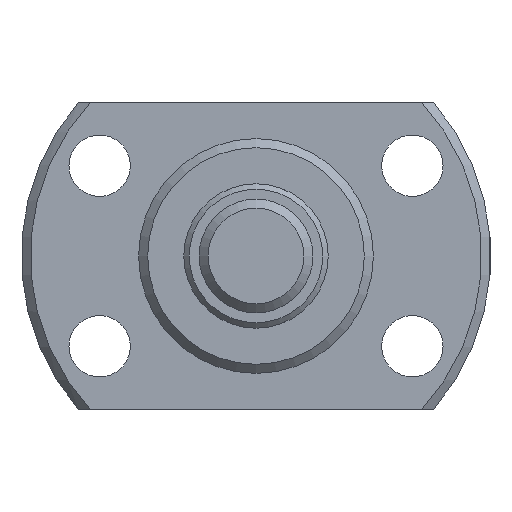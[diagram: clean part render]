
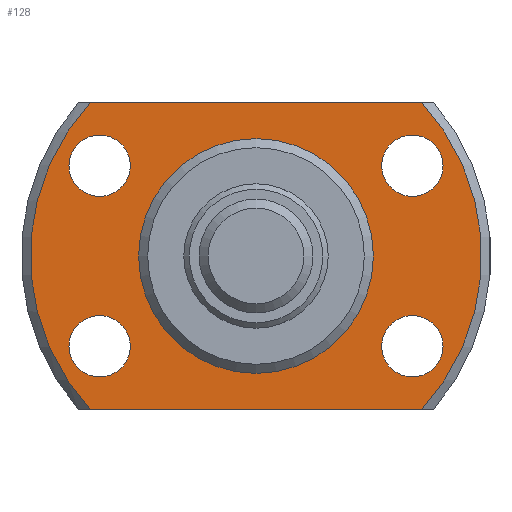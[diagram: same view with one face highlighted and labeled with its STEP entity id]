
A CAD part, left-side view. The second image highlights one B-rep face of the part: STEP entity #128.
In plain terms, the highlighted planar face has unit normal (-1, 0, 0).
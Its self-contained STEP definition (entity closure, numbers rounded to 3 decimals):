
#128 = ADVANCED_FACE( '', ( #253, #254, #255, #256, #257, #258 ), #259, .F. );
#253 = FACE_OUTER_BOUND( '', #409, .T. );
#254 = FACE_BOUND( '', #410, .T. );
#255 = FACE_BOUND( '', #411, .T. );
#256 = FACE_BOUND( '', #412, .T. );
#257 = FACE_BOUND( '', #413, .T. );
#258 = FACE_BOUND( '', #414, .T. );
#259 = PLANE( '', #415 );
#409 = EDGE_LOOP( '', ( #579, #580, #581, #582 ) );
#410 = EDGE_LOOP( '', ( #583 ) );
#411 = EDGE_LOOP( '', ( #584 ) );
#412 = EDGE_LOOP( '', ( #585 ) );
#413 = EDGE_LOOP( '', ( #586 ) );
#414 = EDGE_LOOP( '', ( #587 ) );
#415 = AXIS2_PLACEMENT_3D( '', #588, #589, #590 );
#579 = ORIENTED_EDGE( '', *, *, #799, .F. );
#580 = ORIENTED_EDGE( '', *, *, #825, .F. );
#581 = ORIENTED_EDGE( '', *, *, #826, .F. );
#582 = ORIENTED_EDGE( '', *, *, #827, .F. );
#583 = ORIENTED_EDGE( '', *, *, #828, .T. );
#584 = ORIENTED_EDGE( '', *, *, #829, .T. );
#585 = ORIENTED_EDGE( '', *, *, #830, .T. );
#586 = ORIENTED_EDGE( '', *, *, #831, .T. );
#587 = ORIENTED_EDGE( '', *, *, #832, .T. );
#588 = CARTESIAN_POINT( '', ( 11., 6.35, 0. ) );
#589 = DIRECTION( '', ( 1., 0., 0. ) );
#590 = DIRECTION( '', ( 0., 0., -1. ) );
#799 = EDGE_CURVE( '', #899, #895, #901, .T. );
#825 = EDGE_CURVE( '', #944, #899, #945, .T. );
#826 = EDGE_CURVE( '', #946, #944, #947, .T. );
#827 = EDGE_CURVE( '', #895, #946, #948, .T. );
#828 = EDGE_CURVE( '', #949, #949, #950, .T. );
#829 = EDGE_CURVE( '', #951, #951, #952, .T. );
#830 = EDGE_CURVE( '', #953, #953, #954, .T. );
#831 = EDGE_CURVE( '', #955, #955, #956, .T. );
#832 = EDGE_CURVE( '', #957, #957, #958, .T. );
#895 = VERTEX_POINT( '', #1042 );
#899 = VERTEX_POINT( '', #1049 );
#901 = CIRCLE( '', #1054, 12.5 );
#944 = VERTEX_POINT( '', #1108 );
#945 = LINE( '', #1109, #1110 );
#946 = VERTEX_POINT( '', #1111 );
#947 = CIRCLE( '', #1112, 12.5 );
#948 = LINE( '', #1113, #1114 );
#949 = VERTEX_POINT( '', #1115 );
#950 = CIRCLE( '', #1116, 1.7 );
#951 = VERTEX_POINT( '', #1117 );
#952 = CIRCLE( '', #1118, 1.7 );
#953 = VERTEX_POINT( '', #1119 );
#954 = CIRCLE( '', #1120, 1.7 );
#955 = VERTEX_POINT( '', #1121 );
#956 = CIRCLE( '', #1122, 1.7 );
#957 = VERTEX_POINT( '', #1123 );
#958 = CIRCLE( '', #1124, 6.35 );
#1042 = CARTESIAN_POINT( '', ( 11., 9.165, 8.5 ) );
#1049 = CARTESIAN_POINT( '', ( 11., 9.165, -8.5 ) );
#1054 = AXIS2_PLACEMENT_3D( '', #1230, #1231, #1232 );
#1108 = CARTESIAN_POINT( '', ( 11., -9.165, -8.5 ) );
#1109 = CARTESIAN_POINT( '', ( 11., -26., -8.5 ) );
#1110 = VECTOR( '', #1268, 1000. );
#1111 = CARTESIAN_POINT( '', ( 11., -9.165, 8.5 ) );
#1112 = AXIS2_PLACEMENT_3D( '', #1269, #1270, #1271 );
#1113 = CARTESIAN_POINT( '', ( 11., 26., 8.5 ) );
#1114 = VECTOR( '', #1272, 1000. );
#1115 = CARTESIAN_POINT( '', ( 11., -8.66, 3.3 ) );
#1116 = AXIS2_PLACEMENT_3D( '', #1273, #1274, #1275 );
#1117 = CARTESIAN_POINT( '', ( 11., -8.66, -6.7 ) );
#1118 = AXIS2_PLACEMENT_3D( '', #1276, #1277, #1278 );
#1119 = CARTESIAN_POINT( '', ( 11., 8.66, -6.7 ) );
#1120 = AXIS2_PLACEMENT_3D( '', #1279, #1280, #1281 );
#1121 = CARTESIAN_POINT( '', ( 11., 8.66, 3.3 ) );
#1122 = AXIS2_PLACEMENT_3D( '', #1282, #1283, #1284 );
#1123 = CARTESIAN_POINT( '', ( 11., 0., -6.35 ) );
#1124 = AXIS2_PLACEMENT_3D( '', #1285, #1286, #1287 );
#1230 = CARTESIAN_POINT( '', ( 11., 0., 0. ) );
#1231 = DIRECTION( '', ( 1., 0., 0. ) );
#1232 = DIRECTION( '', ( 0., 0., -1. ) );
#1268 = DIRECTION( '', ( 0., 1., 0. ) );
#1269 = CARTESIAN_POINT( '', ( 11., 0., 0. ) );
#1270 = DIRECTION( '', ( 1., 0., 0. ) );
#1271 = DIRECTION( '', ( 0., 0., -1. ) );
#1272 = DIRECTION( '', ( 0., -1., 0. ) );
#1273 = CARTESIAN_POINT( '', ( 11., -8.66, 5. ) );
#1274 = DIRECTION( '', ( 1., 0., 0. ) );
#1275 = DIRECTION( '', ( 0., 0., -1. ) );
#1276 = CARTESIAN_POINT( '', ( 11., -8.66, -5. ) );
#1277 = DIRECTION( '', ( 1., 0., 0. ) );
#1278 = DIRECTION( '', ( 0., 0., -1. ) );
#1279 = CARTESIAN_POINT( '', ( 11., 8.66, -5. ) );
#1280 = DIRECTION( '', ( 1., 0., 0. ) );
#1281 = DIRECTION( '', ( 0., 0., -1. ) );
#1282 = CARTESIAN_POINT( '', ( 11., 8.66, 5. ) );
#1283 = DIRECTION( '', ( 1., 0., 0. ) );
#1284 = DIRECTION( '', ( 0., 0., -1. ) );
#1285 = CARTESIAN_POINT( '', ( 11., 0., 0. ) );
#1286 = DIRECTION( '', ( 1., 0., 0. ) );
#1287 = DIRECTION( '', ( 0., 0., -1. ) );
